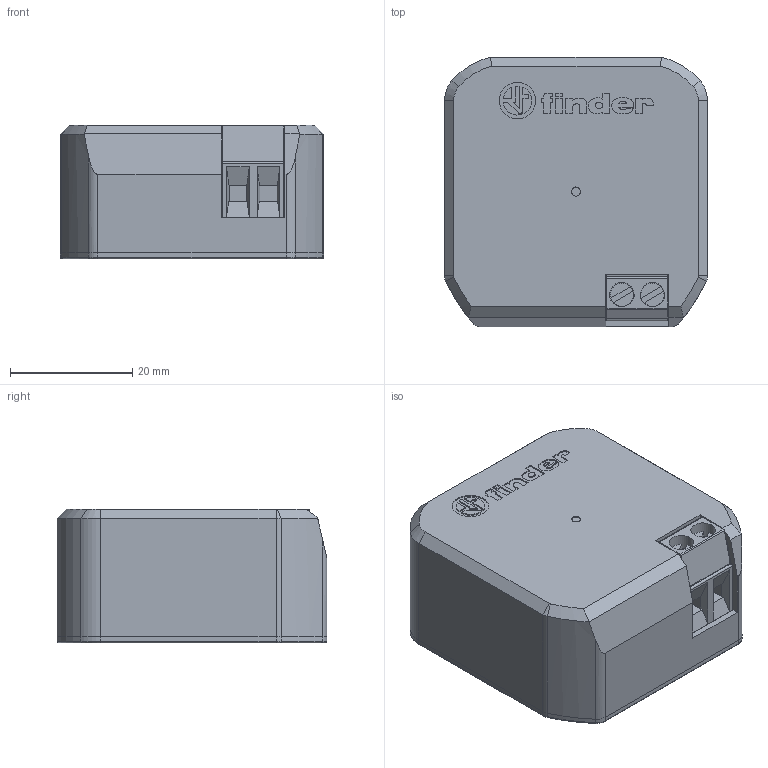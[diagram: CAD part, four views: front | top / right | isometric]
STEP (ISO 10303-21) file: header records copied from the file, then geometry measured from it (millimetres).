
FILE_DESCRIPTION(/* description */ ('Unknown'),/* implementation_level */ '2;1');
FILE_NAME(/* name */ 'complessivo 1Y_E8',/* time_stamp */ '2019-05-02T10:39:38+02:00',/* author */ ('Unknown'),/* organization */ ('Unknown'),/* preprocessor_version */ 'ST-DEVELOPER v16.7',/* originating_system */ 'DEX',/* authorisation */ $);
FILE_SCHEMA (('AUTOMOTIVE_DESIGN {1 0 10303 214 3 1 1}'));
Length unit declared in the file: millimetre
Products named in the file (1): complessivo 1Y_E8
Bounding box: 43 x 44.1 x 21.9 mm (x, y, z)
Surface area: 7977.7 mm2 (no closed solid volume)
Topology: 0 solids, 16 shells, 275 faces, 890 edges, 632 vertices
Faces by surface type: plane 182, cylinder 71, cone 12, torus 10
Full cylindrical faces by diameter (mm): 1.5 x1, 3.8 x2, 5.962 x1
Entity records: 9749 total; most frequent: CARTESIAN_POINT 1792, DIRECTION 1666, ORIENTED_EDGE 1425, EDGE_CURVE 877, LINE 632, VECTOR 632, VERTEX_POINT 627, AXIS2_PLACEMENT_3D 517
